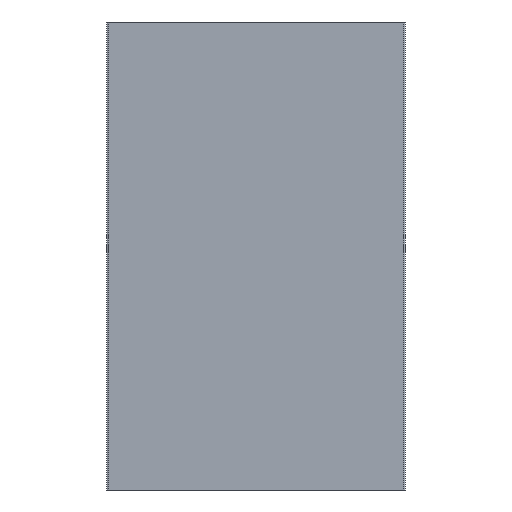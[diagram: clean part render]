
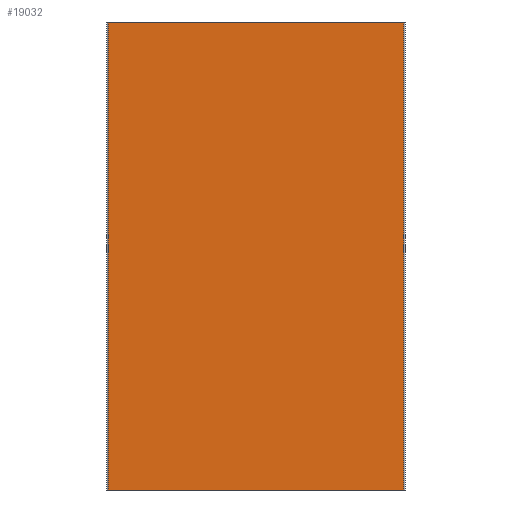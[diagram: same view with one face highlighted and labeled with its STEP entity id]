
A CAD part, left-side view. The second image highlights one B-rep face of the part: STEP entity #19032.
In plain terms, the highlighted planar face has unit normal (-1, 0, 0).
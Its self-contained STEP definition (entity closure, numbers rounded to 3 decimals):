
#2258=PLANE('',#20231);
#2633=FACE_OUTER_BOUND('',#3755,.T.);
#3755=EDGE_LOOP('',(#12645,#12646,#12647,#12648));
#4978=LINE('',#26412,#5808);
#4979=LINE('',#26415,#5809);
#4980=LINE('',#26417,#5810);
#4981=LINE('',#26418,#5811);
#5808=VECTOR('',#22057,10.);
#5809=VECTOR('',#22060,10.);
#5810=VECTOR('',#22061,10.);
#5811=VECTOR('',#22062,10.);
#7420=VERTEX_POINT('',#26408);
#7421=VERTEX_POINT('',#26410);
#7422=VERTEX_POINT('',#26414);
#7423=VERTEX_POINT('',#26416);
#9491=EDGE_CURVE('',#7420,#7421,#4978,.T.);
#9492=EDGE_CURVE('',#7422,#7420,#4979,.T.);
#9493=EDGE_CURVE('',#7423,#7421,#4980,.T.);
#9494=EDGE_CURVE('',#7422,#7423,#4981,.T.);
#12645=ORIENTED_EDGE('',*,*,#9492,.T.);
#12646=ORIENTED_EDGE('',*,*,#9491,.T.);
#12647=ORIENTED_EDGE('',*,*,#9493,.F.);
#12648=ORIENTED_EDGE('',*,*,#9494,.F.);
#19032=ADVANCED_FACE('',(#2633),#2258,.T.);
#20231=AXIS2_PLACEMENT_3D('',#26413,#22058,#22059);
#22057=DIRECTION('',(0.,0.,1.));
#22058=DIRECTION('center_axis',(-1.,0.,0.));
#22059=DIRECTION('ref_axis',(0.,-1.,0.));
#22060=DIRECTION('',(0.,-1.,0.));
#22061=DIRECTION('',(0.,-1.,0.));
#22062=DIRECTION('',(0.,0.,1.));
#26408=CARTESIAN_POINT('',(-18.595,-41.736,0.));
#26410=CARTESIAN_POINT('',(-18.595,-41.736,149.));
#26412=CARTESIAN_POINT('',(-18.595,-41.736,0.));
#26413=CARTESIAN_POINT('Origin',(-18.595,52.364,0.));
#26414=CARTESIAN_POINT('',(-18.595,52.364,0.));
#26415=CARTESIAN_POINT('',(-18.595,52.364,0.));
#26416=CARTESIAN_POINT('',(-18.595,52.364,149.));
#26417=CARTESIAN_POINT('',(-18.595,52.364,149.));
#26418=CARTESIAN_POINT('',(-18.595,52.364,0.));
